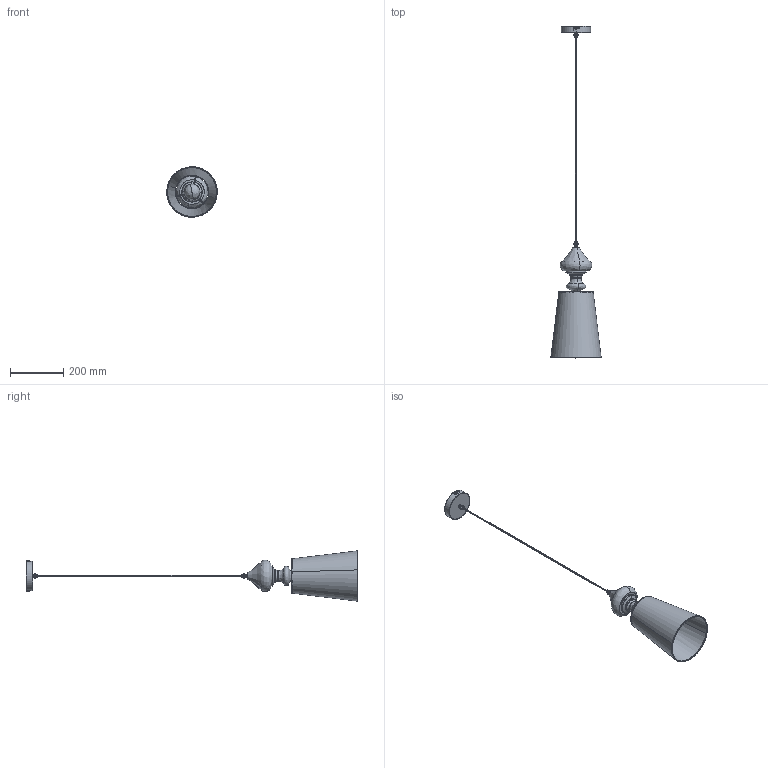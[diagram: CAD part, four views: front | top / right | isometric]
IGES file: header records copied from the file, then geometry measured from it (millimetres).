
Start section: SolidWorks IGES file using analytic representation for surfaces
Global section: file name: E:\3D lampy\Alaska\Alaska_3730.IGS; native system: SolidWorks 2016; preprocessor: SolidWorks 2016; author: Asia; date: 171016.092805; units: millimetre
Bounding box: 189.97 x 1250.99 x 189.96 mm (x, y, z)
Surface area: 476211.1 mm2 (no closed solid volume)
Topology: 0 solids, 0 shells, 1806 faces, 18132 edges, 18112 vertices
Faces by surface type: revolution 1006, bspline 800
